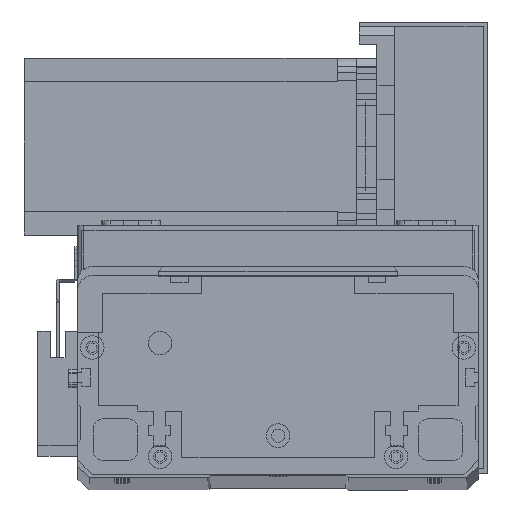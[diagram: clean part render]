
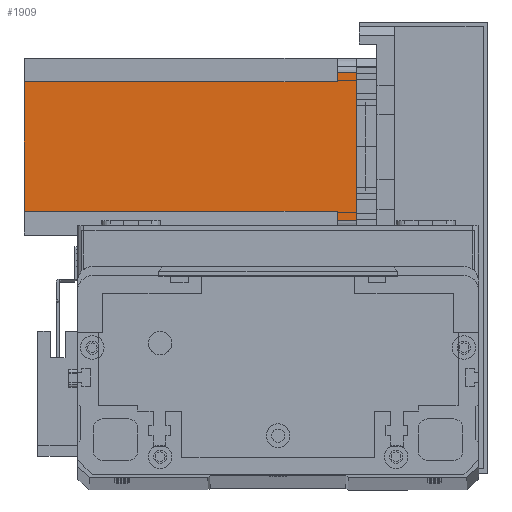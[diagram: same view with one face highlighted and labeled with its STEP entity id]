
A CAD part, top view. The second image highlights one B-rep face of the part: STEP entity #1909.
In plain terms, the highlighted planar face has unit normal (0, 0, 1) as drawn and (0, 1, 0) by its records, which use the part's own axes.
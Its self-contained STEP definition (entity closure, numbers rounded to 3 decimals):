
#175 = EDGE_CURVE ( 'NONE', #5590, #21926, #18743, .T. ) ;
#224 = EDGE_CURVE ( 'NONE', #19135, #20280, #29627, .T. ) ;
#636 = EDGE_CURVE ( 'NONE', #4776, #20280, #6857, .T. ) ;
#1434 = ORIENTED_EDGE ( 'NONE', *, *, #10303, .F. ) ;
#1909 = ADVANCED_FACE ( 'NONE', ( #9040 ), #9004, .T. ) ;
#2045 = VERTEX_POINT ( 'NONE', #15911 ) ;
#2348 = ORIENTED_EDGE ( 'NONE', *, *, #9368, .T. ) ;
#4458 = ORIENTED_EDGE ( 'NONE', *, *, #26863, .T. ) ;
#4776 = VERTEX_POINT ( 'NONE', #22760 ) ;
#4784 = ORIENTED_EDGE ( 'NONE', *, *, #175, .T. ) ;
#4907 = AXIS2_PLACEMENT_3D ( 'NONE', #5606, #8974, #26970 ) ;
#5044 = CARTESIAN_POINT ( 'NONE',  ( 55., 60., -112.5 ) ) ;
#5222 = CARTESIAN_POINT ( 'NONE',  ( 8., 60., -112.5 ) ) ;
#5367 = VECTOR ( 'NONE', #27081, 1000. ) ;
#5590 = VERTEX_POINT ( 'NONE', #10664 ) ;
#5606 = CARTESIAN_POINT ( 'NONE',  ( 0., 60., -112.5 ) ) ;
#6776 = LINE ( 'NONE', #12878, #24925 ) ;
#6857 = LINE ( 'NONE', #5044, #7621 ) ;
#7621 = VECTOR ( 'NONE', #8659, 1000. ) ;
#7723 = VECTOR ( 'NONE', #24183, 1000. ) ;
#8659 = DIRECTION ( 'NONE',  ( 0., 0., -1. ) ) ;
#8974 = DIRECTION ( 'NONE',  ( 0., 1., 0. ) ) ;
#9004 = PLANE ( 'NONE',  #4907 ) ;
#9040 = FACE_OUTER_BOUND ( 'NONE', #22768, .T. ) ;
#9368 = EDGE_CURVE ( 'NONE', #2045, #11786, #10820, .T. ) ;
#9752 = CARTESIAN_POINT ( 'NONE',  ( 5., 60., 0. ) ) ;
#10072 = VECTOR ( 'NONE', #27068, 1000. ) ;
#10303 = EDGE_CURVE ( 'NONE', #2045, #19135, #12211, .T. ) ;
#10315 = DIRECTION ( 'NONE',  ( 0., 0., 1. ) ) ;
#10518 = CARTESIAN_POINT ( 'NONE',  ( 52., 60., -112.5 ) ) ;
#10664 = CARTESIAN_POINT ( 'NONE',  ( 5., 60., -6.5 ) ) ;
#10820 = LINE ( 'NONE', #27377, #10072 ) ;
#11354 = CARTESIAN_POINT ( 'NONE',  ( 8., 60., -112.5 ) ) ;
#11786 = VERTEX_POINT ( 'NONE', #11354 ) ;
#11913 = CARTESIAN_POINT ( 'NONE',  ( 8., 60., -6.5 ) ) ;
#12080 = DIRECTION ( 'NONE',  ( -1., 0., 0. ) ) ;
#12211 = LINE ( 'NONE', #10518, #17770 ) ;
#12878 = CARTESIAN_POINT ( 'NONE',  ( 0., 60., 0. ) ) ;
#14275 = DIRECTION ( 'NONE',  ( -1., 0., 0. ) ) ;
#14961 = CARTESIAN_POINT ( 'NONE',  ( 8., 60., -6.5 ) ) ;
#15838 = EDGE_CURVE ( 'NONE', #4776, #21926, #6776, .T. ) ;
#15911 = CARTESIAN_POINT ( 'NONE',  ( 52., 60., -112.5 ) ) ;
#16289 = ORIENTED_EDGE ( 'NONE', *, *, #224, .F. ) ;
#17770 = VECTOR ( 'NONE', #10315, 1000. ) ;
#18743 = LINE ( 'NONE', #24358, #5367 ) ;
#19135 = VERTEX_POINT ( 'NONE', #27046 ) ;
#19662 = VERTEX_POINT ( 'NONE', #14961 ) ;
#19966 = VECTOR ( 'NONE', #14275, 1000. ) ;
#20116 = CARTESIAN_POINT ( 'NONE',  ( 55., 60., -6.5 ) ) ;
#20280 = VERTEX_POINT ( 'NONE', #20116 ) ;
#21356 = ORIENTED_EDGE ( 'NONE', *, *, #636, .T. ) ;
#21398 = ORIENTED_EDGE ( 'NONE', *, *, #15838, .F. ) ;
#21926 = VERTEX_POINT ( 'NONE', #9752 ) ;
#22760 = CARTESIAN_POINT ( 'NONE',  ( 55., 60., 0. ) ) ;
#22768 = EDGE_LOOP ( 'NONE', ( #21398, #21356, #16289, #1434, #2348, #25241, #4458, #4784 ) ) ;
#23793 = CARTESIAN_POINT ( 'NONE',  ( 52., 60., -6.5 ) ) ;
#24183 = DIRECTION ( 'NONE',  ( 0., 0., -1. ) ) ;
#24358 = CARTESIAN_POINT ( 'NONE',  ( 5., 60., -112.5 ) ) ;
#24925 = VECTOR ( 'NONE', #12080, 1000. ) ;
#25241 = ORIENTED_EDGE ( 'NONE', *, *, #27452, .F. ) ;
#26195 = LINE ( 'NONE', #11913, #19966 ) ;
#26863 = EDGE_CURVE ( 'NONE', #19662, #5590, #26195, .T. ) ;
#26970 = DIRECTION ( 'NONE',  ( 0., 0., 1. ) ) ;
#27046 = CARTESIAN_POINT ( 'NONE',  ( 52., 60., -6.5 ) ) ;
#27068 = DIRECTION ( 'NONE',  ( -1., 0., 0. ) ) ;
#27081 = DIRECTION ( 'NONE',  ( 0., 0., 1. ) ) ;
#27254 = LINE ( 'NONE', #5222, #7723 ) ;
#27377 = CARTESIAN_POINT ( 'NONE',  ( 0., 60., -112.5 ) ) ;
#27452 = EDGE_CURVE ( 'NONE', #19662, #11786, #27254, .T. ) ;
#28928 = VECTOR ( 'NONE', #30602, 1000. ) ;
#29627 = LINE ( 'NONE', #23793, #28928 ) ;
#30602 = DIRECTION ( 'NONE',  ( 1., 0., 0. ) ) ;
